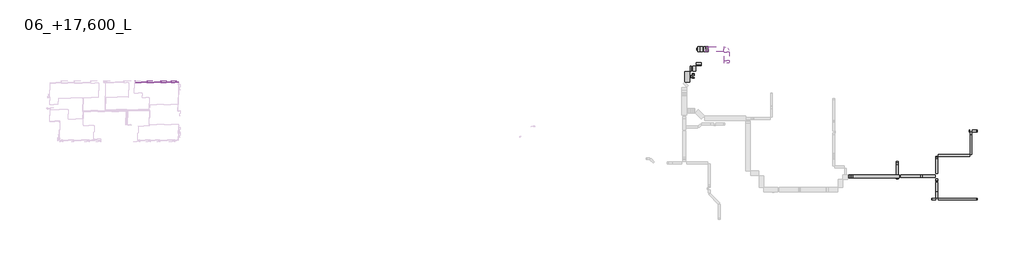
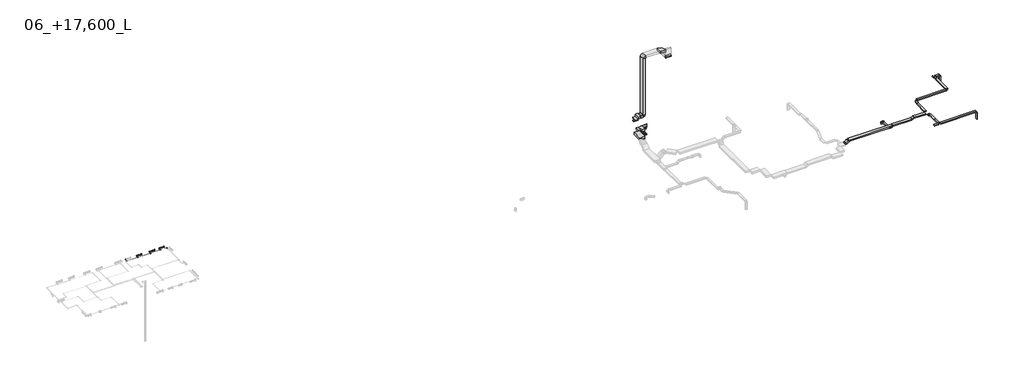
# One storey, part 7 of 7: 50 duct segments, 15 pipe fittings, 14 pipe segments, 5 duct fittings, 4 valves, 3 proxies.
"""IFC4 building model written with IfcOpenShell, lengths in millimetres."""

from ifc_helpers import new_model, si_unit, point, frame, frame_2d, origin, place, context, project, spatial, polyline, circle_curve, trimmed, segment, composite_curve, outline, extrude, transform, mapped, element, save
from components import mechanical_equipment_c68842d5, duct_fitting_aed367f4, duct_fitting_0fd2956b, duct_fitting_d738778a, pipe_fitting_44bd76dc, pipe_fitting_8f811e63, pipe_fitting_d927fdfb, valve_5b696a81

model = new_model("IFC4")

# Units and contexts
model_context = context("Model", 3, world=origin())
ifc_project = project(units=[si_unit("LENGTHUNIT", "METRE", prefix="MILLI")], contexts=[model_context])

# Site, building, storey
site = spatial("IfcSite", under=ifc_project)
building = spatial("IfcBuilding", under=site)
storey = spatial("IfcBuildingStorey", under=building, Name="06_+17,600_L", Elevation=17600.0)

# Proxies
placement = place(None, origin())
mechanical_equipment_shape = mechanical_equipment_c68842d5(model_context)
element("IfcBuildingElementProxy", 1, Name="EVRA CV Д : 21-300-1400", ObjectType="EVRA CV Д : 21-300-1400", at=placement, inside=storey, context=model_context, shape_type="MappedRepresentation", body=[
    mapped(mechanical_equipment_shape, transform((80100.0, 128438.5368898, 31400.0), x_axis=(1.0, 0.0, 0.0), y_axis=(0.0, 1.0, 0.0), z_axis=(0.0, 0.0, 1.0))),
])
element("IfcBuildingElementProxy", 2, Name="EVRA CV Д : 21-300-1400", ObjectType="EVRA CV Д : 21-300-1400", at=placement, inside=storey, context=model_context, shape_type="MappedRepresentation", body=[
    mapped(mechanical_equipment_shape, transform((77400.0, 128438.5368898, 31400.0), x_axis=(1.0, 0.0, 0.0), y_axis=(0.0, 1.0, 0.0), z_axis=(0.0, 0.0, 1.0))),
])
element("IfcBuildingElementProxy", 3, Name="EVRA CV Д : 21-300-1400", ObjectType="EVRA CV Д : 21-300-1400", at=placement, inside=storey, context=model_context, shape_type="MappedRepresentation", body=[
    mapped(mechanical_equipment_shape, transform((73800.0, 128438.5368898, 31400.0), x_axis=(1.0, 0.0, 0.0), y_axis=(0.0, 1.0, 0.0), z_axis=(0.0, 0.0, 1.0))),
])

# Duct fittings
duct_fitting_shape = duct_fitting_aed367f4(model_context)
element("IfcDuctFitting", 4, ObjectType="ADSK_ОтводВоздуховодов_Прямоугольный1 : Стандарт 2", at=placement, inside=storey, context=model_context, shape_type="MappedRepresentation", body=[
    mapped(duct_fitting_shape, transform((224558.3733342, 136737.4445295, 34450.0), x_axis=(0.0, 1.0, 0.0), y_axis=(-1.0, 0.0, 0.0), z_axis=(0.0, 0.0, 1.0))),
])
duct_fitting_2_shape = duct_fitting_0fd2956b(model_context)
element("IfcDuctFitting", 5, ObjectType="ADSK_ОтводВоздуховодов_Прямоугольный1 : Стандарт 2", at=placement, inside=storey, context=model_context, shape_type="MappedRepresentation", body=[
    mapped(duct_fitting_2_shape, transform((219395.1357678, 136737.4445295, 17150.0), x_axis=(0.0, 0.0, -1.0), y_axis=(-1.0, 0.0, 0.0), z_axis=(0.0, 1.0, 0.0))),
])
element("IfcDuctFitting", 6, ObjectType="ADSK_ОтводВоздуховодов_Прямоугольный1 : Стандарт 2", at=placement, inside=storey, context=model_context, shape_type="MappedRepresentation", body=[
    mapped(duct_fitting_2_shape, transform((219395.1357678, 136737.4445295, 34450.0), x_axis=(0.0, 0.0, 1.0), y_axis=(1.0, 0.0, 0.0), z_axis=(0.0, 1.0, 0.0))),
])
element("IfcDuctFitting", 7, ObjectType="ADSK_ОтводВоздуховодов_Прямоугольный1 : Стандарт 2", at=placement, inside=storey, context=model_context, shape_type="MappedRepresentation", body=[
    mapped(duct_fitting_2_shape, transform((224558.3733342, 133443.5394111, 34450.0), x_axis=(0.0, 0.0, -1.0), y_axis=(0.0, 1.0, 0.0), z_axis=(1.0, 0.0, 0.0))),
])
duct_fitting_3_shape = duct_fitting_d738778a(model_context)
element("IfcDuctFitting", 8, ObjectType="ADSK_ПереходникВоздуховодов_Прямоугольный1 : Стандартное 2", at=placement, inside=storey, context=model_context, shape_type="MappedRepresentation", body=[
    mapped(duct_fitting_3_shape, transform((217285.1831845, 132877.4445295, 16180.0), x_axis=(0.0, 0.0, 1.0), y_axis=(1.0, 0.0, 0.0), z_axis=(0.0, 1.0, 0.0))),
])

# Duct segments
element("IfcDuctSegment", 9, ObjectType="ADSK_С огнезащитой_Тройники_ГОСТ 14918-80", at=placement, inside=storey, context=model_context, shape_type="SweptSolid", body=[
    extrude(outline(polyline([(219095.1357678, 136037.4445295), (219095.1357678, 137437.4445295), (219695.1357678, 137437.4445295), (219695.1357678, 136037.4445295), (219095.1357678, 136037.4445295)])), frame((0.0, 0.0, 17500.0), z_axis=(0.0, 0.0, 1.0), x_axis=(1.0, 0.0, 0.0)), (0.0, 0.0, 1.0), 16600.0),
])
element("IfcDuctSegment", 10, ObjectType="ADSK_Без огнезащиты_Врезки_ГОСТ 14918-80", at=placement, inside=storey, context=model_context, shape_type="SweptSolid", body=[
    extrude(outline(polyline([(215365.1831836, 132342.4589168), (215365.1831836, 130942.4589168), (215035.1831843, 130942.4589168), (215035.1831843, 132342.4589168), (215365.1831836, 132342.4589168)])), frame((0.0, 0.0, 16850.0), z_axis=(0.0, 0.0, 1.0), x_axis=(1.0, 0.0, 0.0)), (0.0, 0.0, 1.0), 600.0),
])
element("IfcDuctSegment", 11, ObjectType="ADSK_С огнезащитой_Тройники_ГОСТ 14918-80", at=placement, inside=storey, context=model_context, shape_type="SweptSolid", body=[
    extrude(outline(polyline([(223808.3733342, 137437.4445295), (223808.3733342, 136037.4445295), (219745.1357678, 136037.4445295), (219745.1357678, 137437.4445295), (223808.3733342, 137437.4445295)])), frame((0.0, 0.0, 34150.0), z_axis=(0.0, 0.0, 1.0), x_axis=(1.0, 0.0, 0.0)), (0.0, 0.0, 1.0), 600.0),
])
element("IfcDuctSegment", 12, ObjectType="ADSK_С огнезащитой_Тройники_ГОСТ 14918-80", at=placement, inside=storey, context=model_context, shape_type="SweptSolid", body=[
    extrude(outline(polyline([(225258.3733342, 133793.5394111), (223858.3733342, 133793.5394111), (223858.3733342, 135987.4445295), (225258.3733342, 135987.4445295), (225258.3733342, 133793.5394111)])), frame((0.0, 0.0, 34150.0), z_axis=(0.0, 0.0, 1.0), x_axis=(1.0, 0.0, 0.0)), (0.0, 0.0, 1.0), 600.0),
])
element("IfcDuctSegment", 13, ObjectType="ADSK_С огнезащитой_Тройники_ГОСТ 14918-80", at=placement, inside=storey, context=model_context, shape_type="SweptSolid", body=[
    extrude(outline(polyline([(225258.3733342, 133143.5394111), (223858.3733342, 133143.5394111), (223858.3733342, 133743.5394111), (225258.3733342, 133743.5394111), (225258.3733342, 133143.5394111)])), frame((0.0, 0.0, 34800.0), z_axis=(0.0, 0.0, 1.0), x_axis=(1.0, 0.0, 0.0)), (0.0, 0.0, 1.0), 2050.0),
])
element("IfcDuctSegment", 14, ObjectType="ADSK_Без огнезащиты_Врезки_ГОСТ 14918-80", at=placement, inside=storey, context=model_context, shape_type="SweptSolid", body=[
    extrude(outline(polyline([(218260.1357679, 137437.4445295), (218260.1357679, 136037.4445295), (217635.1831845, 136037.4445295), (217635.1831845, 137437.4445295), (218260.1357679, 137437.4445295)])), frame((0.0, 0.0, 16850.0), z_axis=(0.0, 0.0, 1.0), x_axis=(1.0, 0.0, 0.0)), (0.0, 0.0, 1.0), 600.0),
])
element("IfcDuctSegment", 15, ObjectType="ADSK_Без огнезащиты_Врезки_ГОСТ 14918-80", at=placement, inside=storey, context=model_context, shape_type="SweptSolid", body=[
    extrude(outline(polyline([(289730.1831846, 97792.4589168), (289980.1831846, 97792.4589168), (289980.1831846, 97292.4589168), (289730.1831846, 97292.4589168), (289730.1831846, 97792.4589168)])), frame((0.0, 0.0, 15000.0), z_axis=(0.0, 0.0, 1.0), x_axis=(1.0, 0.0, 0.0)), (0.0, 0.0, 1.0), 2100.0),
])
element("IfcDuctSegment", 16, ObjectType="ADSK_Без огнезащиты_Врезки_ГОСТ 14918-80", at=placement, inside=storey, context=model_context, shape_type="SweptSolid", body=[
    extrude(outline(polyline([(279713.8342572, 108684.9259478), (279713.8342572, 109184.9259478), (288005.1831845, 109184.9259478), (288005.1831845, 108684.9259478), (279713.8342572, 108684.9259478)])), frame((0.0, 0.0, 17150.0), z_axis=(0.0, 0.0, 1.0), x_axis=(1.0, 0.0, 0.0)), (0.0, 0.0, 1.0), 250.0),
])
element("IfcDuctSegment", 17, ObjectType="ADSK_Без огнезащиты_Врезки_ГОСТ 14918-80", at=placement, inside=storey, context=model_context, shape_type="SweptSolid", body=[
    extrude(outline(polyline([(289980.1502156, 115067.4589168), (289730.1502156, 115067.4589168), (289730.1502156, 115567.4589168), (289980.1502156, 115567.4589168), (289980.1502156, 115067.4589168)])), frame((0.0, 0.0, 15000.0), z_axis=(0.0, 0.0, 1.0), x_axis=(1.0, 0.0, 0.0)), (0.0, 0.0, 1.0), 2100.0),
])
element("IfcDuctSegment", 18, ObjectType="ADSK_Без огнезащиты_Врезки_ГОСТ 14918-80", at=placement, inside=storey, context=model_context, shape_type="SweptSolid", body=[
    extrude(outline(polyline([(288555.1831845, 114446.0377921), (288055.1831845, 114446.0377921), (288055.1831845, 115042.4589168), (288555.1831845, 115042.4589168), (288555.1831845, 114446.0377921)])), frame((0.0, 0.0, 17150.0), z_axis=(0.0, 0.0, 1.0), x_axis=(1.0, 0.0, 0.0)), (0.0, 0.0, 1.0), 250.0),
])
element("IfcDuctSegment", 19, ObjectType="ADSK_Без огнезащиты_Врезки_ГОСТ 14918-80", at=placement, inside=storey, context=model_context, shape_type="SweptSolid", body=[
    extrude(outline(polyline([(279163.8342572, 108634.9259478), (279663.8342572, 108634.9259478), (279663.8342572, 108614.8961867), (279163.8342572, 108614.8961867), (279163.8342572, 108634.9259478)])), frame((0.0, 0.0, 17150.0), z_axis=(0.0, 0.0, 1.0), x_axis=(1.0, 0.0, 0.0)), (0.0, 0.0, 1.0), 250.0),
])
element("IfcDuctSegment", 20, ObjectType="ADSK_Без огнезащиты_Врезки_ГОСТ 14918-80", at=placement, inside=storey, context=model_context, shape_type="SweptSolid", body=[
    extrude(outline(polyline([(279163.8342572, 101940.2041658), (279663.8342572, 101940.2041658), (279663.8342572, 99599.1098713), (279163.8342572, 99599.1098713), (279163.8342572, 101940.2041658)])), frame((0.0, 0.0, 17150.0), z_axis=(0.0, 0.0, 1.0), x_axis=(1.0, 0.0, 0.0)), (0.0, 0.0, 1.0), 250.0),
])
element("IfcDuctSegment", 21, ObjectType="ADSK_Без огнезащиты_Врезки_ГОСТ 14918-80", at=placement, inside=storey, context=model_context, shape_type="SweptSolid", body=[
    extrude(outline(polyline([(279663.6941991, 102432.6662902), (279163.6941991, 102432.6662902), (279163.6941991, 102842.4589168), (279663.6941991, 102842.4589168), (279663.6941991, 102432.6662902)])), frame((0.0, 0.0, 16700.0), z_axis=(0.0, 0.0, 1.0), x_axis=(1.0, 0.0, 0.0)), (0.0, 0.0, 1.0), 250.0),
])
element("IfcDuctSegment", 22, ObjectType="ADSK_Без огнезащиты_Врезки_ГОСТ 14918-80", at=placement, inside=storey, context=model_context, shape_type="SweptSolid", body=[
    extrude(outline(polyline([(279663.7609154, 104192.4589168), (279163.7609154, 104192.4589168), (279163.7609154, 108019.8908551), (279663.7609154, 108019.8908551), (279663.7609154, 104192.4589168)])), frame((0.0, 0.0, 16700.0), z_axis=(0.0, 0.0, 1.0), x_axis=(1.0, 0.0, 0.0)), (0.0, 0.0, 1.0), 250.0),
])
element("IfcDuctSegment", 23, ObjectType="ADSK_Без огнезащиты_Врезки_ГОСТ 14918-80", at=placement, inside=storey, context=model_context, shape_type="SweptSolid", body=[
    extrude(outline(polyline([(0.0, -500.0), (0.0, 0.0), (491.4583866, 0.0), (491.4583866, -500.0000001), (0.0, -500.0)])), frame((279663.8421573, 108579.4990382, 17135.3595147), z_axis=(-0.00013005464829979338, -0.7070756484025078, 0.7071379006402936), x_axis=(-0.00011524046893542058, -0.7071378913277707, -0.7070756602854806)), (0.0, 0.0, 1.0), 250.0),
])
element("IfcDuctSegment", 24, ObjectType="ADSK_Без огнезащиты_Врезки_ГОСТ 14918-80", at=placement, inside=storey, context=model_context, shape_type="SweptSolid", body=[
    extrude(outline(polyline([(0.0, -500.0), (0.0, 0.0), (118.9339986, 0.0), (118.9339986, -500.0), (0.0, -500.0)])), frame((279663.6941889, 102220.5846383, 16787.8175832), z_axis=(0.0, 0.707106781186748, 0.7071067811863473), x_axis=(0.0002850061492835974, -0.7071067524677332, 0.7071067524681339)), (0.0, 0.0, 1.0), 250.0),
])
element("IfcDuctSegment", 25, ObjectType="ADSK_Без огнезащиты_Врезки_ГОСТ 14918-80", at=placement, inside=storey, context=model_context, shape_type="SweptSolid", body=[
    extrude(outline(polyline([(257539.2063193, 103117.4589168), (257539.2063193, 103917.4589168), (269604.7173881, 103917.4589168), (269604.7173881, 103117.4589168), (257539.2063193, 103117.4589168)])), frame((0.0, 0.0, 16250.0), z_axis=(0.0, 0.0, 1.0), x_axis=(1.0, 0.0, 0.0)), (0.0, 0.0, 1.0), 400.0),
])
element("IfcDuctSegment", 26, ObjectType="ADSK_Без огнезащиты_Врезки_ГОСТ 14918-80", at=placement, inside=storey, context=model_context, shape_type="SweptSolid", body=[
    extrude(outline(polyline([(0.0, -700.0), (0.0, 0.0), (542.8203415, 0.0), (542.8203415, -700.0), (0.0, -700.0)])), frame((275699.2237561, 103167.4589168, 16668.3012705), z_axis=(-0.4999999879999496, 0.0, 0.8660254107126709), x_axis=(-0.8660254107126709, 0.0, -0.4999999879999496)), (0.0, 0.0, 1.0), 300.0),
])
element("IfcDuctSegment", 27, ObjectType="ADSK_Без огнезащиты_Врезки_ГОСТ 14918-80", at=placement, inside=storey, context=model_context, shape_type="SweptSolid", body=[
    extrude(outline(polyline([(268837.8163483, 107092.4589168), (268837.8163483, 107342.4589168), (269337.8163483, 107342.4589168), (269337.8163483, 107092.4589168), (268837.8163483, 107092.4589168)])), frame((0.0, 0.0, 15000.0), z_axis=(0.0, 0.0, 1.0), x_axis=(1.0, 0.0, 0.0)), (0.0, 0.0, 1.0), 600.0),
])
element("IfcDuctSegment", 28, ObjectType="ADSK_Без огнезащиты_Врезки_ГОСТ 14918-80", at=placement, inside=storey, context=model_context, shape_type="SweptSolid", body=[
    extrude(outline(polyline([(275054.1275511, 103867.4589168), (275054.1275511, 103167.4589168), (269904.7173881, 103167.4589168), (269904.7173881, 103867.4589168), (275054.1275511, 103867.4589168)])), frame((0.0, 0.0, 16350.0), z_axis=(0.0, 0.0, 1.0), x_axis=(1.0, 0.0, 0.0)), (0.0, 0.0, 1.0), 300.0),
])
element("IfcDuctSegment", 29, ObjectType="ADSK_Без огнезащиты_Врезки_ГОСТ 14918-80", at=placement, inside=storey, context=model_context, shape_type="SweptSolid", body=[
    extrude(outline(polyline([(200.0, 847.2135955), (200.0, 47.2135955), (-199.9999999, 47.2135955), (-199.9999999, 847.2135955), (200.0, 847.2135955)])), frame((256908.8762334, 103070.2453213, 15923.2233047), z_axis=(0.7071067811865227, 0.0, 0.7071067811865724), x_axis=(0.7071067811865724, 0.0, -0.7071067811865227)), (0.0, 0.0, 1.0), 641.4213562),
])
element("IfcDuctSegment", 30, ObjectType="ADSK_Без огнезащиты_Врезки_ГОСТ 14918-80", at=placement, inside=storey, context=model_context, shape_type="SweptSolid", body=[
    extrude(outline(polyline([(215195.1831843, 129811.6379159), (215195.1831843, 129311.6379159), (215005.1831843, 129311.6379159), (215005.1831843, 129811.6379159), (215195.1831843, 129811.6379159)])), frame((0.0, 0.0, 17025.0), z_axis=(0.0, 0.0, 1.0), x_axis=(1.0, 0.0, 0.0)), (0.0, 0.0, 1.0), 250.0),
])
element("IfcDuctSegment", 31, ObjectType="ADSK_Без огнезащиты_Врезки_ГОСТ 14918-80", at=placement, inside=storey, context=model_context, shape_type="SweptSolid", body=[
    extrude(outline(polyline([(213585.1831843, 130892.4589168), (214985.1831843, 130892.4589168), (214985.1831843, 128175.1214892), (213585.1831843, 128175.1214892), (213585.1831843, 130892.4589168)])), frame((0.0, 0.0, 16850.0), z_axis=(0.0, 0.0, 1.0), x_axis=(1.0, 0.0, 0.0)), (0.0, 0.0, 1.0), 600.0),
])
element("IfcDuctSegment", 32, ObjectType="ADSK_Без огнезащиты_Врезки_ГОСТ 14918-80", at=placement, inside=storey, context=model_context, shape_type="SweptSolid", body=[
    extrude(outline(polyline([(215535.1831843, 130156.6379159), (215535.1831843, 130406.6379159), (216035.1831843, 130406.6379159), (216035.1831843, 130156.6379159), (215535.1831843, 130156.6379159)])), frame((0.0, 0.0, 15000.0), z_axis=(0.0, 0.0, 1.0), x_axis=(1.0, 0.0, 0.0)), (0.0, 0.0, 1.0), 1975.0),
])
element("IfcDuctSegment", 33, ObjectType="ADSK_Без огнезащиты_Врезки_ГОСТ 14918-80", at=placement, inside=storey, context=model_context, shape_type="SweptSolid", body=[
    extrude(outline(polyline([(268837.8163483, 103402.4589168), (268837.8163483, 103652.4589168), (269337.8163483, 103652.4589168), (269337.8163483, 103402.4589168), (268837.8163483, 103402.4589168)])), frame((0.0, 0.0, 15950.0), z_axis=(0.0, 0.0, 1.0), x_axis=(1.0, 0.0, 0.0)), (0.0, 0.0, 1.0), 280.0),
])
element("IfcDuctSegment", 34, ObjectType="ADSK_Без огнезащиты_Врезки_ГОСТ 14918-80", at=placement, inside=storey, context=model_context, shape_type="SweptSolid", body=[
    extrude(outline(polyline([(268837.8163483, 102885.9890971), (269337.8163483, 102885.9890971), (269337.8163483, 102880.9890971), (268837.8163483, 102880.9890971), (268837.8163483, 102885.9890971)])), frame((0.0, 0.0, 16325.0), z_axis=(0.0, 0.0, 1.0), x_axis=(1.0, 0.0, 0.0)), (0.0, 0.0, 1.0), 250.0),
])
element("IfcDuctSegment", 35, ObjectType="ADSK_Без огнезащиты_Врезки_ГОСТ 14918-80", at=placement, inside=storey, context=model_context, shape_type="SweptSolid", body=[
    extrude(outline(polyline([(278048.8342572, 97792.4589168), (278048.8342572, 97292.4589168), (278043.8342572, 97292.4589168), (278043.8342572, 97792.4589168), (278048.8342572, 97792.4589168)])), frame((0.0, 0.0, 17150.0), z_axis=(0.0, 0.0, 1.0), x_axis=(1.0, 0.0, 0.0)), (0.0, 0.0, 1.0), 250.0),
])
element("IfcDuctSegment", 36, ObjectType="ADSK_Без огнезащиты_Врезки_ГОСТ 14918-80", at=placement, inside=storey, context=model_context, shape_type="SweptSolid", body=[
    extrude(outline(polyline([(287900.1831845, 115567.4589168), (287900.1831845, 115067.4589168), (287895.1831845, 115067.4589168), (287895.1831845, 115567.4589168), (287900.1831845, 115567.4589168)])), frame((0.0, 0.0, 17150.0), z_axis=(0.0, 0.0, 1.0), x_axis=(1.0, 0.0, 0.0)), (0.0, 0.0, 1.0), 250.0),
])
element("IfcDuctSegment", 37, ObjectType="ADSK_Без огнезащиты_Врезки_ГОСТ 14918-80", at=placement, inside=storey, context=model_context, shape_type="SweptSolid", body=[
    extrude(outline(polyline([(279138.8342572, 97792.4589168), (279138.8342572, 97292.4589168), (278173.8342572, 97292.4589168), (278173.8342572, 97792.4589168), (279138.8342572, 97792.4589168)])), frame((0.0, 0.0, 17150.0), z_axis=(0.0, 0.0, 1.0), x_axis=(1.0, 0.0, 0.0)), (0.0, 0.0, 1.0), 250.0),
])
element("IfcDuctSegment", 38, ObjectType="ADSK_Без огнезащиты_Врезки_ГОСТ 14918-80", at=placement, inside=storey, context=model_context, shape_type="SweptSolid", body=[
    extrude(outline(polyline([(289680.1831846, 97792.4589168), (289680.1831846, 97292.4589168), (279688.8342572, 97292.4589168), (279688.8342572, 97792.4589168), (289680.1831846, 97792.4589168)])), frame((0.0, 0.0, 17150.0), z_axis=(0.0, 0.0, 1.0), x_axis=(1.0, 0.0, 0.0)), (0.0, 0.0, 1.0), 250.0),
])
element("IfcDuctSegment", 39, ObjectType="ADSK_Без огнезащиты_Врезки_ГОСТ 14918-80", at=placement, inside=storey, context=model_context, shape_type="SweptSolid", body=[
    extrude(outline(polyline([(268837.8163483, 103097.4589168), (269337.8163483, 103097.4589168), (269337.8163483, 103010.9890971), (268837.8163483, 103010.9890971), (268837.8163483, 103097.4589168)])), frame((0.0, 0.0, 16325.0), z_axis=(0.0, 0.0, 1.0), x_axis=(1.0, 0.0, 0.0)), (0.0, 0.0, 1.0), 250.0),
])
element("IfcDuctSegment", 40, ObjectType="ADSK_Без огнезащиты_Врезки_ГОСТ 14918-80", at=placement, inside=storey, context=model_context, shape_type="SweptSolid", body=[
    extrude(outline(polyline([(269337.8163483, 103702.4589168), (268837.8163483, 103702.4589168), (268837.8163483, 106529.9589168), (269337.8163483, 106529.9589168), (269337.8163483, 103702.4589168)])), frame((0.0, 0.0, 15650.0), z_axis=(0.0, 0.0, 1.0), x_axis=(1.0, 0.0, 0.0)), (0.0, 0.0, 1.0), 250.0),
])
element("IfcDuctSegment", 41, ObjectType="ADSK_Без огнезащиты_Врезки_ГОСТ 14918-80", at=placement, inside=storey, context=model_context, shape_type="SweptSolid", body=[
    extrude(outline(polyline([(288030.1831845, 115567.4589168), (288030.1831845, 115067.4589168), (288025.1831845, 115067.4589168), (288025.1831845, 115567.4589168), (288030.1831845, 115567.4589168)])), frame((0.0, 0.0, 17150.0), z_axis=(0.0, 0.0, 1.0), x_axis=(1.0, 0.0, 0.0)), (0.0, 0.0, 1.0), 250.0),
])
element("IfcDuctSegment", 42, ObjectType="ADSK_Без огнезащиты_Врезки_ГОСТ 14918-80", at=placement, inside=storey, context=model_context, shape_type="SweptSolid", body=[
    extrude(outline(polyline([(289680.1502156, 115567.4589168), (289680.1502156, 115067.4589168), (288580.1831845, 115067.4589168), (288580.1831845, 115567.4589168), (289680.1502156, 115567.4589168)])), frame((0.0, 0.0, 17150.0), z_axis=(0.0, 0.0, 1.0), x_axis=(1.0, 0.0, 0.0)), (0.0, 0.0, 1.0), 250.0),
])
element("IfcDuctSegment", 43, ObjectType="ADSK_Без огнезащиты_Врезки_ГОСТ 14918-80", at=placement, inside=storey, context=model_context, shape_type="SweptSolid", body=[
    extrude(outline(polyline([(215535.1831843, 129156.6379159), (216035.1831843, 129156.6379159), (216035.1831843, 129151.6379159), (215535.1831843, 129151.6379159), (215535.1831843, 129156.6379159)])), frame((0.0, 0.0, 17025.0), z_axis=(0.0, 0.0, 1.0), x_axis=(1.0, 0.0, 0.0)), (0.0, 0.0, 1.0), 250.0),
])
element("IfcDuctSegment", 44, ObjectType="ADSK_Без огнезащиты_Врезки_ГОСТ 14918-80", at=placement, inside=storey, context=model_context, shape_type="SweptSolid", body=[
    extrude(outline(polyline([(216035.1831843, 129836.6379159), (215535.1831843, 129836.6379159), (215535.1831843, 130106.6379159), (216035.1831843, 130106.6379159), (216035.1831843, 129836.6379159)])), frame((0.0, 0.0, 17025.0), z_axis=(0.0, 0.0, 1.0), x_axis=(1.0, 0.0, 0.0)), (0.0, 0.0, 1.0), 250.0),
])
element("IfcDuctSegment", 45, ObjectType="ADSK_Без огнезащиты_Врезки_ГОСТ 14918-80", at=placement, inside=storey, context=model_context, shape_type="SweptSolid", body=[
    extrude(outline(polyline([(215535.1831843, 129286.6379159), (216035.1831843, 129286.6379159), (216035.1831843, 129281.6379159), (215535.1831843, 129281.6379159), (215535.1831843, 129286.6379159)])), frame((0.0, 0.0, 17025.0), z_axis=(0.0, 0.0, 1.0), x_axis=(1.0, 0.0, 0.0)), (0.0, 0.0, 1.0), 250.0),
])
element("IfcDuctSegment", 46, ObjectType="ADSK_Без огнезащиты_Врезки_ГОСТ 14918-80", at=placement, inside=storey, context=model_context, shape_type="SweptSolid", body=[
    extrude(outline(polyline([(216585.1831845, 132527.4445295), (217985.1831845, 132527.4445294), (217985.1831845, 132392.4589168), (216585.1831845, 132392.4589168), (216585.1831845, 132527.4445295)])), frame((0.0, 0.0, 16850.0), z_axis=(0.0, 0.0, 1.0), x_axis=(1.0, 0.0, 0.0)), (0.0, 0.0, 1.0), 600.0),
])
element("IfcDuctSegment", 47, ObjectType="ADSK_Без огнезащиты_Врезки_ГОСТ 14918-80", at=placement, inside=storey, context=model_context, shape_type="SweptSolid", body=[
    extrude(outline(polyline([(216585.1831845, 132577.4445295), (216585.1831845, 133177.4445295), (217985.1831845, 133177.4445295), (217985.1831845, 132577.4445295), (216585.1831845, 132577.4445295)])), frame((0.0, 0.0, 16480.0), z_axis=(0.0, 0.0, 1.0), x_axis=(1.0, 0.0, 0.0)), (0.0, 0.0, 1.0), 320.0),
])
element("IfcDuctSegment", 48, ObjectType="ADSK_Без огнезащиты_Врезки_ГОСТ 14918-80", at=placement, inside=storey, context=model_context, shape_type="SweptSolid", body=[
    extrude(outline(polyline([(-300.0, -61.5773106), (300.0, -61.5773106), (300.0, -1461.5773106), (-300.0, -1461.5773106), (-300.0, -61.5773106)])), frame((217285.1831845, 135975.8672189, 16550.0), z_axis=(0.0, 5.613559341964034e-12, 1.0), x_axis=(-1.0, 0.0, 0.0)), (0.0, 0.0, 1.0), 250.0),
])
element("IfcDuctSegment", 49, ObjectType="ADSK_Без огнезащиты_Врезки_ГОСТ 14918-80", at=placement, inside=storey, context=model_context, shape_type="SweptSolid", body=[
    extrude(outline(polyline([(256732.0995381, 103917.4589168), (256732.0995381, 103117.4589168), (256462.6839776, 103117.4589168), (256462.6839776, 103917.4589168), (256732.0995381, 103917.4589168)])), frame((0.0, 0.0, 15650.0), z_axis=(0.0, 0.0, 1.0), x_axis=(1.0, 0.0, 0.0)), (0.0, 0.0, 1.0), 400.0),
])
element("IfcDuctSegment", 50, ObjectType="ADSK_Без огнезащиты_Врезки_ГОСТ 14918-80", at=placement, inside=storey, context=model_context, shape_type="SweptSolid", body=[
    extrude(outline(polyline([(268837.8163483, 107042.4589168), (269337.8163483, 107042.4589168), (269337.8163483, 106654.9589168), (268837.8163483, 106654.9589168), (268837.8163483, 107042.4589168)])), frame((0.0, 0.0, 15650.0), z_axis=(0.0, 0.0, 1.0), x_axis=(1.0, 0.0, 0.0)), (0.0, 0.0, 1.0), 250.0),
])
element("IfcDuctSegment", 51, ObjectType="ADSK_Без огнезащиты_Врезки_ГОСТ 14918-80", at=placement, inside=storey, context=model_context, shape_type="SweptSolid", body=[
    extrude(outline(polyline([(215510.1831843, 129811.6379159), (215510.1831843, 129311.6379159), (215320.1831843, 129311.6379159), (215320.1831843, 129811.6379159), (215510.1831843, 129811.6379159)])), frame((0.0, 0.0, 17025.0), z_axis=(0.0, 0.0, 1.0), x_axis=(1.0, 0.0, 0.0)), (0.0, 0.0, 1.0), 250.0),
])
element("IfcDuctSegment", 52, ObjectType="ADSK_Без огнезащиты_Врезки_ГОСТ 14918-80", at=placement, inside=storey, context=model_context, shape_type="SweptSolid", body=[
    extrude(outline(polyline([(279663.8342572, 97817.4589168), (279163.8342572, 97817.4589168), (279163.8342572, 99474.1098713), (279663.8342572, 99474.1098713), (279663.8342572, 97817.4589168)])), frame((0.0, 0.0, 17150.0), z_axis=(0.0, 0.0, 1.0), x_axis=(1.0, 0.0, 0.0)), (0.0, 0.0, 1.0), 250.0),
])
element("IfcDuctSegment", 53, ObjectType="ADSK_Без огнезащиты_Врезки_ГОСТ 14918-80", at=placement, inside=storey, context=model_context, shape_type="SweptSolid", body=[
    extrude(outline(polyline([(288555.1831845, 109234.9259478), (288055.1831845, 109234.9259478), (288055.1831845, 114321.0377921), (288555.1831845, 114321.0377921), (288555.1831845, 109234.9259478)])), frame((0.0, 0.0, 17150.0), z_axis=(0.0, 0.0, 1.0), x_axis=(1.0, 0.0, 0.0)), (0.0, 0.0, 1.0), 250.0),
])
element("IfcDuctSegment", 54, ObjectType="ADSK_Без огнезащиты_Врезки_ГОСТ 14918-80", at=placement, inside=storey, context=model_context, shape_type="SweptSolid", body=[
    extrude(outline(polyline([(275724.2237555, 103167.4589168), (275724.2237555, 103867.4589168), (278938.7609154, 103867.4589168), (278938.7609154, 103167.4589168), (275724.2237555, 103167.4589168)])), frame((0.0, 0.0, 16675.0), z_axis=(0.0, 0.0, 1.0), x_axis=(1.0, 0.0, 0.0)), (0.0, 0.0, 1.0), 300.0),
])
element("IfcDuctSegment", 55, ObjectType="ADSK_С огнезащитой_Тройники_ГОСТ 14918-80", at=placement, inside=storey, context=model_context, shape_type="SweptSolid", body=[
    extrude(outline(polyline([(219045.1357678, 137437.4445295), (219045.1357678, 136037.4445295), (218560.1357679, 136037.4445295), (218560.1357679, 137437.4445295), (219045.1357678, 137437.4445295)])), frame((0.0, 0.0, 16850.0), z_axis=(0.0, 0.0, 1.0), x_axis=(1.0, 0.0, 0.0)), (0.0, 0.0, 1.0), 600.0),
])
element("IfcDuctSegment", 56, ObjectType="ADSK_Без огнезащиты_Врезки_ГОСТ 14918-80", at=placement, inside=storey, context=model_context, shape_type="SweptSolid", body=[
    extrude(outline(polyline([(216535.1831845, 132342.4589168), (216535.1831845, 130942.4589168), (215665.1831836, 130942.4589168), (215665.1831836, 132342.4589168), (216535.1831845, 132342.4589168)])), frame((0.0, 0.0, 16850.0), z_axis=(0.0, 0.0, 1.0), x_axis=(1.0, 0.0, 0.0)), (0.0, 0.0, 1.0), 600.0),
])
element("IfcDuctSegment", 57, ObjectType="ADSK_Без огнезащиты_Врезки_ГОСТ 14918-80", at=placement, inside=storey, context=model_context, shape_type="SweptSolid", body=[
    extrude(outline(polyline([(567.5, -341.9160771), (567.5, -941.9160771), (-567.5, -941.9160771), (-567.5, -341.9160771), (567.5, -341.9160771)])), frame((217285.1831845, 136095.5284524, 16150.0), z_axis=(0.0, 1.5587228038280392e-12, 1.0), x_axis=(-1.0, 0.0, 0.0)), (0.0, 0.0, 1.0), 100.0),
])
element("IfcDuctSegment", 58, ObjectType="ADSK_Без огнезащиты_Врезки_ГОСТ 14918-80", at=placement, inside=storey, context=model_context, shape_type="SweptSolid", body=[
    extrude(outline(polyline([(217852.6831845, 132577.4445295), (216717.6831845, 132577.4445295), (216717.6831845, 133177.4445295), (217852.6831845, 133177.4445295), (217852.6831845, 132577.4445295)])), frame((0.0, 0.0, 16000.0), z_axis=(0.0, 0.0, 1.0), x_axis=(1.0, 0.0, 0.0)), (0.0, 0.0, 1.0), 180.0),
])

# Pipe fittings
pipe_fitting_shape = pipe_fitting_44bd76dc(model_context)
element("IfcPipeFitting", 59, ObjectType="ADSK_Пресс-фитинг ПЭ_Тройник : Пластик черный", at=placement, inside=storey, context=model_context, shape_type="MappedRepresentation", body=[
    mapped(pipe_fitting_shape, transform((73330.0, 128000.0, 31350.0), x_axis=(1.0, 0.0, 0.0), y_axis=(0.0, -1.0, 0.0), z_axis=(0.0, 0.0, -1.0))),
])
element("IfcPipeFitting", 60, ObjectType="ADSK_Пресс-фитинг ПЭ_Тройник : Пластик черный", at=placement, inside=storey, context=model_context, shape_type="MappedRepresentation", body=[
    mapped(pipe_fitting_shape, transform((73380.0, 128100.0, 31350.0), x_axis=(-1.0, 0.0, 0.0), y_axis=(0.0, -1.0, 0.0), z_axis=(0.0, 0.0, 1.0))),
])
element("IfcPipeFitting", 61, ObjectType="ADSK_Пресс-фитинг ПЭ_Тройник : Пластик черный", at=placement, inside=storey, context=model_context, shape_type="MappedRepresentation", body=[
    mapped(pipe_fitting_shape, transform((76930.0, 128000.0, 31350.0), x_axis=(-1.0, 0.0, 0.0), y_axis=(0.0, -1.0, 0.0), z_axis=(0.0, 0.0, 1.0))),
])
element("IfcPipeFitting", 62, ObjectType="ADSK_Пресс-фитинг ПЭ_Тройник : Пластик черный", at=placement, inside=storey, context=model_context, shape_type="MappedRepresentation", body=[
    mapped(pipe_fitting_shape, transform((76980.0, 128100.0, 31350.0), x_axis=(-1.0, 0.0, 0.0), y_axis=(0.0, -1.0, 0.0), z_axis=(0.0, 0.0, 1.0))),
])
element("IfcPipeFitting", 63, ObjectType="ADSK_Пресс-фитинг ПЭ_Тройник : Пластик черный", at=placement, inside=storey, context=model_context, shape_type="MappedRepresentation", body=[
    mapped(pipe_fitting_shape, transform((79680.0, 128100.0, 31350.0), x_axis=(1.0, 0.0, 0.0), y_axis=(0.0, -1.0, 0.0), z_axis=(0.0, 0.0, -1.0))),
])
element("IfcPipeFitting", 64, ObjectType="ADSK_Пресс-фитинг ПЭ_Тройник : Пластик черный", at=placement, inside=storey, context=model_context, shape_type="MappedRepresentation", body=[
    mapped(pipe_fitting_shape, transform((79630.0, 128000.0, 31350.0), x_axis=(1.0, 0.0, 0.0), y_axis=(0.0, -1.0, 0.0), z_axis=(0.0, 0.0, -1.0))),
])
pipe_fitting_2_shape = pipe_fitting_8f811e63(model_context)
element("IfcPipeFitting", 65, ObjectType="ADSK_Пресс-фитинг ПЭ_Поворот с фиксатором : Поворот трубы", at=placement, inside=storey, context=model_context, shape_type="MappedRepresentation", body=[
    mapped(pipe_fitting_2_shape, transform((81500.0000006, 128000.0, 31350.0), x_axis=(0.0, 1.0, 0.0), y_axis=(-1.0, 0.0, 0.0), z_axis=(0.0, 0.0, 1.0))),
])
element("IfcPipeFitting", 66, ObjectType="ADSK_Пресс-фитинг ПЭ_Поворот с фиксатором : Поворот трубы", at=placement, inside=storey, context=model_context, shape_type="MappedRepresentation", body=[
    mapped(pipe_fitting_2_shape, transform((81600.0000006, 128100.0, 31350.0), x_axis=(0.0, 1.0, 0.0), y_axis=(-1.0, 0.0, 0.0), z_axis=(0.0, 0.0, 1.0))),
])
pipe_fitting_3_shape = pipe_fitting_d927fdfb(model_context)
element("IfcPipeFitting", 67, ObjectType="Трубка Г-образная VTm.481.PC из стены : VTm.481.PC", at=placement, inside=storey, context=model_context, shape_type="MappedRepresentation", body=[
    mapped(pipe_fitting_3_shape, transform((79630.0, 128488.0, 31350.0), x_axis=(1.0, 0.0, 0.0), y_axis=(0.0, 1.0, 0.0), z_axis=(0.0, 0.0, 1.0))),
])
element("IfcPipeFitting", 68, ObjectType="Трубка Г-образная VTm.481.PC из стены : VTm.481.PC", at=placement, inside=storey, context=model_context, shape_type="MappedRepresentation", body=[
    mapped(pipe_fitting_3_shape, transform((76930.0, 128488.0, 31350.0), x_axis=(1.0, 0.0, 0.0), y_axis=(0.0, 1.0, 0.0), z_axis=(0.0, 0.0, 1.0))),
])
element("IfcPipeFitting", 69, ObjectType="Трубка Г-образная VTm.481.PC из стены : VTm.481.PC", at=placement, inside=storey, context=model_context, shape_type="MappedRepresentation", body=[
    mapped(pipe_fitting_3_shape, transform((73330.0, 128488.0, 31350.0), x_axis=(1.0, 0.0, 0.0), y_axis=(0.0, 1.0, 0.0), z_axis=(0.0, 0.0, 1.0))),
])
element("IfcPipeFitting", 70, ObjectType="Трубка Г-образная VTm.481.PC из стены : VTm.481.PC", at=placement, inside=storey, context=model_context, shape_type="MappedRepresentation", body=[
    mapped(pipe_fitting_3_shape, transform((79680.0, 128488.0, 31350.0), x_axis=(1.0, 0.0, 0.0), y_axis=(0.0, 1.0, 0.0), z_axis=(0.0, 0.0, 1.0))),
])
element("IfcPipeFitting", 71, ObjectType="Трубка Г-образная VTm.481.PC из стены : VTm.481.PC", at=placement, inside=storey, context=model_context, shape_type="MappedRepresentation", body=[
    mapped(pipe_fitting_3_shape, transform((76980.0, 128488.0, 31350.0), x_axis=(1.0, 0.0, 0.0), y_axis=(0.0, 1.0, 0.0), z_axis=(0.0, 0.0, 1.0))),
])
element("IfcPipeFitting", 72, ObjectType="Трубка Г-образная VTm.481.PC из стены : VTm.481.PC", at=placement, inside=storey, context=model_context, shape_type="MappedRepresentation", body=[
    mapped(pipe_fitting_3_shape, transform((73380.0, 128488.0, 31350.0), x_axis=(1.0, 0.0, 0.0), y_axis=(0.0, 1.0, 0.0), z_axis=(0.0, 0.0, 1.0))),
])
element("IfcPipeFitting", 73, ObjectType="Трубка Г-образная VTm.481.PC из стены : VTm.481.PC", at=placement, inside=storey, context=model_context, shape_type="MappedRepresentation", body=[
    mapped(pipe_fitting_3_shape, transform((70280.0, 128488.0, 31350.0), x_axis=(1.0, 0.0, 0.0), y_axis=(0.0, 1.0, 0.0), z_axis=(0.0, 0.0, 1.0))),
])

# Pipe segments
element("IfcPipeSegment", 74, ObjectType="ADSK_Полиэтилен сшитый", at=placement, inside=storey, context=model_context, shape_type="SweptSolid", body=[
    extrude(outline(composite_curve([segment(trimmed(circle_curve(frame_2d((31350.0, 79630.0)), 8.0), [point((31350.0, 79638.0))], [point((31358.0, 79630.0))], False, "CARTESIAN"), True, "CONTINUOUS"), segment(trimmed(circle_curve(frame_2d((31350.0, 79630.0)), 8.0), [point((31358.0, 79630.0))], [point((31350.0, 79622.0))], False, "CARTESIAN"), True, "CONTINUOUS"), segment(trimmed(circle_curve(frame_2d((31350.0, 79630.0)), 8.0), [point((31350.0, 79622.0))], [point((31342.0, 79630.0))], False, "CARTESIAN"), True, "CONTINUOUS"), segment(trimmed(circle_curve(frame_2d((31350.0, 79630.0)), 8.0), [point((31342.0, 79630.0))], [point((31350.0, 79638.0))], False, "CARTESIAN"), True, "CONTINUOUS")], self_intersect=False)), frame((0.0, 128024.0, 0.0), z_axis=(0.0, 1.0, 0.0), x_axis=(0.0, 0.0, 1.0)), (0.0, 0.0, 1.0), 349.0),
])
element("IfcPipeSegment", 75, ObjectType="ADSK_Полиэтилен сшитый", at=placement, inside=storey, context=model_context, shape_type="SweptSolid", body=[
    extrude(outline(composite_curve([segment(trimmed(circle_curve(frame_2d((128000.0, 31350.0)), 8.0), [point((128008.0, 31350.0))], [point((128000.0, 31342.0))], False, "CARTESIAN"), True, "CONTINUOUS"), segment(trimmed(circle_curve(frame_2d((128000.0, 31350.0)), 8.0), [point((128000.0, 31342.0))], [point((127992.0, 31350.0))], False, "CARTESIAN"), True, "CONTINUOUS"), segment(trimmed(circle_curve(frame_2d((128000.0, 31350.0)), 8.0), [point((127992.0, 31350.0))], [point((128000.0, 31358.0))], False, "CARTESIAN"), True, "CONTINUOUS"), segment(trimmed(circle_curve(frame_2d((128000.0, 31350.0)), 8.0), [point((128000.0, 31358.0))], [point((128008.0, 31350.0))], False, "CARTESIAN"), True, "CONTINUOUS")], self_intersect=False)), frame((76949.0, 0.0, 0.0), z_axis=(1.0, 0.0, 0.0), x_axis=(0.0, 1.0, 0.0)), (0.0, 0.0, 1.0), 2661.0),
])
element("IfcPipeSegment", 76, ObjectType="ADSK_Полиэтилен сшитый", at=placement, inside=storey, context=model_context, shape_type="SweptSolid", body=[
    extrude(outline(composite_curve([segment(trimmed(circle_curve(frame_2d((31350.0, 79680.0)), 8.0), [point((31350.0, 79688.0))], [point((31358.0, 79680.0))], False, "CARTESIAN"), True, "CONTINUOUS"), segment(trimmed(circle_curve(frame_2d((31350.0, 79680.0)), 8.0), [point((31358.0, 79680.0))], [point((31350.0, 79672.0))], False, "CARTESIAN"), True, "CONTINUOUS"), segment(trimmed(circle_curve(frame_2d((31350.0, 79680.0)), 8.0), [point((31350.0, 79672.0))], [point((31342.0, 79680.0))], False, "CARTESIAN"), True, "CONTINUOUS"), segment(trimmed(circle_curve(frame_2d((31350.0, 79680.0)), 8.0), [point((31342.0, 79680.0))], [point((31350.0, 79688.0))], False, "CARTESIAN"), True, "CONTINUOUS")], self_intersect=False)), frame((0.0, 128126.0, 0.0), z_axis=(0.0, 1.0, 0.0), x_axis=(0.0, 0.0, 1.0)), (0.0, 0.0, 1.0), 247.0),
])
element("IfcPipeSegment", 77, ObjectType="ADSK_Полиэтилен сшитый", at=placement, inside=storey, context=model_context, shape_type="SweptSolid", body=[
    extrude(outline(composite_curve([segment(trimmed(circle_curve(frame_2d((128100.0, 31350.0)), 8.0), [point((128108.0, 31350.0))], [point((128100.0, 31342.0))], False, "CARTESIAN"), True, "CONTINUOUS"), segment(trimmed(circle_curve(frame_2d((128100.0, 31350.0)), 8.0), [point((128100.0, 31342.0))], [point((128092.0, 31350.0))], False, "CARTESIAN"), True, "CONTINUOUS"), segment(trimmed(circle_curve(frame_2d((128100.0, 31350.0)), 8.0), [point((128092.0, 31350.0))], [point((128100.0, 31358.0))], False, "CARTESIAN"), True, "CONTINUOUS"), segment(trimmed(circle_curve(frame_2d((128100.0, 31350.0)), 8.0), [point((128100.0, 31358.0))], [point((128108.0, 31350.0))], False, "CARTESIAN"), True, "CONTINUOUS")], self_intersect=False)), frame((77000.0, 0.0, 0.0), z_axis=(1.0, 0.0, 0.0), x_axis=(0.0, 1.0, 0.0)), (0.0, 0.0, 1.0), 2661.0),
])
element("IfcPipeSegment", 78, ObjectType="ADSK_Полиэтилен сшитый", at=placement, inside=storey, context=model_context, shape_type="SweptSolid", body=[
    extrude(outline(composite_curve([segment(trimmed(circle_curve(frame_2d((128100.0, 31350.0)), 8.0), [point((128108.0, 31350.0))], [point((128100.0, 31342.0))], False, "CARTESIAN"), True, "CONTINUOUS"), segment(trimmed(circle_curve(frame_2d((128100.0, 31350.0)), 8.0), [point((128100.0, 31342.0))], [point((128092.0, 31350.0))], False, "CARTESIAN"), True, "CONTINUOUS"), segment(trimmed(circle_curve(frame_2d((128100.0, 31350.0)), 8.0), [point((128092.0, 31350.0))], [point((128100.0, 31358.0))], False, "CARTESIAN"), True, "CONTINUOUS"), segment(trimmed(circle_curve(frame_2d((128100.0, 31350.0)), 8.0), [point((128100.0, 31358.0))], [point((128108.0, 31350.0))], False, "CARTESIAN"), True, "CONTINUOUS")], self_intersect=False)), frame((70328.0, 0.0, 0.0), z_axis=(1.0, 0.0, 0.0), x_axis=(0.0, 1.0, 0.0)), (0.0, 0.0, 1.0), 3032.0),
])
element("IfcPipeSegment", 79, ObjectType="ADSK_Полиэтилен сшитый", at=placement, inside=storey, context=model_context, shape_type="SweptSolid", body=[
    extrude(outline(composite_curve([segment(trimmed(circle_curve(frame_2d((31350.0, 73380.0)), 8.0), [point((31350.0, 73388.0))], [point((31358.0, 73380.0))], False, "CARTESIAN"), True, "CONTINUOUS"), segment(trimmed(circle_curve(frame_2d((31350.0, 73380.0)), 8.0), [point((31358.0, 73380.0))], [point((31350.0, 73372.0))], False, "CARTESIAN"), True, "CONTINUOUS"), segment(trimmed(circle_curve(frame_2d((31350.0, 73380.0)), 8.0), [point((31350.0, 73372.0))], [point((31342.0, 73380.0))], False, "CARTESIAN"), True, "CONTINUOUS"), segment(trimmed(circle_curve(frame_2d((31350.0, 73380.0)), 8.0), [point((31342.0, 73380.0))], [point((31350.0, 73388.0))], False, "CARTESIAN"), True, "CONTINUOUS")], self_intersect=False)), frame((0.0, 128124.0, 0.0), z_axis=(0.0, 1.0, 0.0), x_axis=(0.0, 0.0, 1.0)), (0.0, 0.0, 1.0), 249.0),
])
element("IfcPipeSegment", 80, ObjectType="ADSK_Полиэтилен сшитый", at=placement, inside=storey, context=model_context, shape_type="SweptSolid", body=[
    extrude(outline(composite_curve([segment(trimmed(circle_curve(frame_2d((31350.0, 73330.0)), 8.0), [point((31350.0, 73338.0))], [point((31358.0, 73330.0))], False, "CARTESIAN"), True, "CONTINUOUS"), segment(trimmed(circle_curve(frame_2d((31350.0, 73330.0)), 8.0), [point((31358.0, 73330.0))], [point((31350.0, 73322.0))], False, "CARTESIAN"), True, "CONTINUOUS"), segment(trimmed(circle_curve(frame_2d((31350.0, 73330.0)), 8.0), [point((31350.0, 73322.0))], [point((31342.0, 73330.0))], False, "CARTESIAN"), True, "CONTINUOUS"), segment(trimmed(circle_curve(frame_2d((31350.0, 73330.0)), 8.0), [point((31342.0, 73330.0))], [point((31350.0, 73338.0))], False, "CARTESIAN"), True, "CONTINUOUS")], self_intersect=False)), frame((0.0, 128024.0, 0.0), z_axis=(0.0, 1.0, 0.0), x_axis=(0.0, 0.0, 1.0)), (0.0, 0.0, 1.0), 349.0),
])
element("IfcPipeSegment", 81, ObjectType="ADSK_Полиэтилен сшитый", at=placement, inside=storey, context=model_context, shape_type="SweptSolid", body=[
    extrude(outline(composite_curve([segment(trimmed(circle_curve(frame_2d((128000.0, 31350.0)), 8.0), [point((127992.0, 31350.0))], [point((128000.0, 31358.0))], False, "CARTESIAN"), True, "CONTINUOUS"), segment(trimmed(circle_curve(frame_2d((128000.0, 31350.0)), 8.0), [point((128000.0, 31358.0))], [point((128008.0, 31350.0))], False, "CARTESIAN"), True, "CONTINUOUS"), segment(trimmed(circle_curve(frame_2d((128000.0, 31350.0)), 8.0), [point((128008.0, 31350.0))], [point((128000.0, 31342.0))], False, "CARTESIAN"), True, "CONTINUOUS"), segment(trimmed(circle_curve(frame_2d((128000.0, 31350.0)), 8.0), [point((128000.0, 31342.0))], [point((127992.0, 31350.0))], False, "CARTESIAN"), True, "CONTINUOUS")], self_intersect=False)), frame((70250.0, 0.0, 0.0), z_axis=(1.0, 0.0, 0.0), x_axis=(0.0, 1.0, 0.0)), (0.0, 0.0, 1.0), 3060.0),
])
element("IfcPipeSegment", 82, ObjectType="ADSK_Полиэтилен сшитый", at=placement, inside=storey, context=model_context, shape_type="SweptSolid", body=[
    extrude(outline(composite_curve([segment(trimmed(circle_curve(frame_2d((31350.0, 76980.0)), 8.0), [point((31350.0, 76988.0))], [point((31358.0, 76980.0))], False, "CARTESIAN"), True, "CONTINUOUS"), segment(trimmed(circle_curve(frame_2d((31350.0, 76980.0)), 8.0), [point((31358.0, 76980.0))], [point((31350.0, 76972.0))], False, "CARTESIAN"), True, "CONTINUOUS"), segment(trimmed(circle_curve(frame_2d((31350.0, 76980.0)), 8.0), [point((31350.0, 76972.0))], [point((31342.0, 76980.0))], False, "CARTESIAN"), True, "CONTINUOUS"), segment(trimmed(circle_curve(frame_2d((31350.0, 76980.0)), 8.0), [point((31342.0, 76980.0))], [point((31350.0, 76988.0))], False, "CARTESIAN"), True, "CONTINUOUS")], self_intersect=False)), frame((0.0, 128124.0, 0.0), z_axis=(0.0, 1.0, 0.0), x_axis=(0.0, 0.0, 1.0)), (0.0, 0.0, 1.0), 249.0),
])
element("IfcPipeSegment", 83, ObjectType="ADSK_Полиэтилен сшитый", at=placement, inside=storey, context=model_context, shape_type="SweptSolid", body=[
    extrude(outline(composite_curve([segment(trimmed(circle_curve(frame_2d((31350.0, 76930.0)), 8.0), [point((31350.0, 76938.0))], [point((31358.0, 76930.0))], False, "CARTESIAN"), True, "CONTINUOUS"), segment(trimmed(circle_curve(frame_2d((31350.0, 76930.0)), 8.0), [point((31358.0, 76930.0))], [point((31350.0, 76922.0))], False, "CARTESIAN"), True, "CONTINUOUS"), segment(trimmed(circle_curve(frame_2d((31350.0, 76930.0)), 8.0), [point((31350.0, 76922.0))], [point((31342.0, 76930.0))], False, "CARTESIAN"), True, "CONTINUOUS"), segment(trimmed(circle_curve(frame_2d((31350.0, 76930.0)), 8.0), [point((31342.0, 76930.0))], [point((31350.0, 76938.0))], False, "CARTESIAN"), True, "CONTINUOUS")], self_intersect=False)), frame((0.0, 128026.0, 0.0), z_axis=(0.0, 1.0, 0.0), x_axis=(0.0, 0.0, 1.0)), (0.0, 0.0, 1.0), 347.0),
])
element("IfcPipeSegment", 84, ObjectType="ADSK_Полиэтилен сшитый", at=placement, inside=storey, context=model_context, shape_type="SweptSolid", body=[
    extrude(outline(composite_curve([segment(trimmed(circle_curve(frame_2d((128100.0, 31350.0)), 8.0), [point((128108.0, 31350.0))], [point((128100.0, 31342.0))], False, "CARTESIAN"), True, "CONTINUOUS"), segment(trimmed(circle_curve(frame_2d((128100.0, 31350.0)), 8.0), [point((128100.0, 31342.0))], [point((128092.0, 31350.0))], False, "CARTESIAN"), True, "CONTINUOUS"), segment(trimmed(circle_curve(frame_2d((128100.0, 31350.0)), 8.0), [point((128092.0, 31350.0))], [point((128100.0, 31358.0))], False, "CARTESIAN"), True, "CONTINUOUS"), segment(trimmed(circle_curve(frame_2d((128100.0, 31350.0)), 8.0), [point((128100.0, 31358.0))], [point((128108.0, 31350.0))], False, "CARTESIAN"), True, "CONTINUOUS")], self_intersect=False)), frame((73400.0, 0.0, 0.0), z_axis=(1.0, 0.0, 0.0), x_axis=(0.0, 1.0, 0.0)), (0.0, 0.0, 1.0), 3560.0),
])
element("IfcPipeSegment", 85, ObjectType="ADSK_Полиэтилен сшитый", at=placement, inside=storey, context=model_context, shape_type="SweptSolid", body=[
    extrude(outline(composite_curve([segment(trimmed(circle_curve(frame_2d((128000.0, 31350.0)), 8.0), [point((127992.0, 31350.0))], [point((128000.0, 31358.0))], False, "CARTESIAN"), True, "CONTINUOUS"), segment(trimmed(circle_curve(frame_2d((128000.0, 31350.0)), 8.0), [point((128000.0, 31358.0))], [point((128008.0, 31350.0))], False, "CARTESIAN"), True, "CONTINUOUS"), segment(trimmed(circle_curve(frame_2d((128000.0, 31350.0)), 8.0), [point((128008.0, 31350.0))], [point((128000.0, 31342.0))], False, "CARTESIAN"), True, "CONTINUOUS"), segment(trimmed(circle_curve(frame_2d((128000.0, 31350.0)), 8.0), [point((128000.0, 31342.0))], [point((127992.0, 31350.0))], False, "CARTESIAN"), True, "CONTINUOUS")], self_intersect=False)), frame((73350.0, 0.0, 0.0), z_axis=(1.0, 0.0, 0.0), x_axis=(0.0, 1.0, 0.0)), (0.0, 0.0, 1.0), 3561.0),
])
element("IfcPipeSegment", 86, ObjectType="ADSK_Полиэтилен сшитый", at=placement, inside=storey, context=model_context, shape_type="SweptSolid", body=[
    extrude(outline(composite_curve([segment(trimmed(circle_curve(frame_2d((128100.0, 31350.0)), 8.0), [point((128108.0, 31350.0))], [point((128100.0, 31342.0))], False, "CARTESIAN"), True, "CONTINUOUS"), segment(trimmed(circle_curve(frame_2d((128100.0, 31350.0)), 8.0), [point((128100.0, 31342.0))], [point((128092.0, 31350.0))], False, "CARTESIAN"), True, "CONTINUOUS"), segment(trimmed(circle_curve(frame_2d((128100.0, 31350.0)), 8.0), [point((128092.0, 31350.0))], [point((128100.0, 31358.0))], False, "CARTESIAN"), True, "CONTINUOUS"), segment(trimmed(circle_curve(frame_2d((128100.0, 31350.0)), 8.0), [point((128100.0, 31358.0))], [point((128108.0, 31350.0))], False, "CARTESIAN"), True, "CONTINUOUS")], self_intersect=False)), frame((79699.0, 0.0, 0.0), z_axis=(1.0, 0.0, 0.0), x_axis=(0.0, 1.0, 0.0)), (0.0, 0.0, 1.0), 1853.0000006),
])
element("IfcPipeSegment", 87, ObjectType="ADSK_Полиэтилен сшитый", at=placement, inside=storey, context=model_context, shape_type="SweptSolid", body=[
    extrude(outline(composite_curve([segment(trimmed(circle_curve(frame_2d((128000.0, 31350.0)), 8.0), [point((128008.0, 31350.0))], [point((128000.0, 31342.0))], False, "CARTESIAN"), True, "CONTINUOUS"), segment(trimmed(circle_curve(frame_2d((128000.0, 31350.0)), 8.0), [point((128000.0, 31342.0))], [point((127992.0, 31350.0))], False, "CARTESIAN"), True, "CONTINUOUS"), segment(trimmed(circle_curve(frame_2d((128000.0, 31350.0)), 8.0), [point((127992.0, 31350.0))], [point((128000.0, 31358.0))], False, "CARTESIAN"), True, "CONTINUOUS"), segment(trimmed(circle_curve(frame_2d((128000.0, 31350.0)), 8.0), [point((128000.0, 31358.0))], [point((128008.0, 31350.0))], False, "CARTESIAN"), True, "CONTINUOUS")], self_intersect=False)), frame((79650.0, 0.0, 0.0), z_axis=(1.0, 0.0, 0.0), x_axis=(0.0, 1.0, 0.0)), (0.0, 0.0, 1.0), 1802.0000006),
])

# Valves
valve_shape = valve_5b696a81(model_context)
element("IfcValve", 88, ObjectType="EVRA_Термоголовка EVRA MТB140 : EVRA MТB140", at=placement, inside=storey, context=model_context, shape_type="MappedRepresentation", body=[
    mapped(valve_shape, transform((80300.0, 128413.0, 31750.0), x_axis=(1.0, 0.0, 0.0), y_axis=(0.0, 1.0, 0.0), z_axis=(0.0, 0.0, 1.0))),
])
element("IfcValve", 89, ObjectType="EVRA_Термоголовка EVRA MТB140 : EVRA MТB140", at=placement, inside=storey, context=model_context, shape_type="MappedRepresentation", body=[
    mapped(valve_shape, transform((77600.0, 128413.0, 31750.0), x_axis=(1.0, 0.0, 0.0), y_axis=(0.0, 1.0, 0.0), z_axis=(0.0, 0.0, 1.0))),
])
element("IfcValve", 90, ObjectType="EVRA_Термоголовка EVRA MТB140 : EVRA MТB140", at=placement, inside=storey, context=model_context, shape_type="MappedRepresentation", body=[
    mapped(valve_shape, transform((74000.0, 128413.0, 31750.0), x_axis=(1.0, 0.0, 0.0), y_axis=(0.0, 1.0, 0.0), z_axis=(0.0, 0.0, 1.0))),
])
element("IfcValve", 91, ObjectType="EVRA_Термоголовка EVRA MТB140 : EVRA MТB140", at=placement, inside=storey, context=model_context, shape_type="MappedRepresentation", body=[
    mapped(valve_shape, transform((70900.0, 128413.0, 31750.0), x_axis=(1.0, 0.0, 0.0), y_axis=(0.0, 1.0, 0.0), z_axis=(0.0, 0.0, 1.0))),
])

save(model, "model.ifc")
